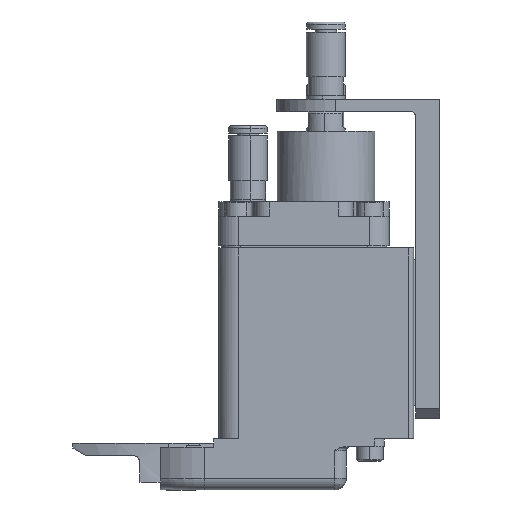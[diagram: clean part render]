
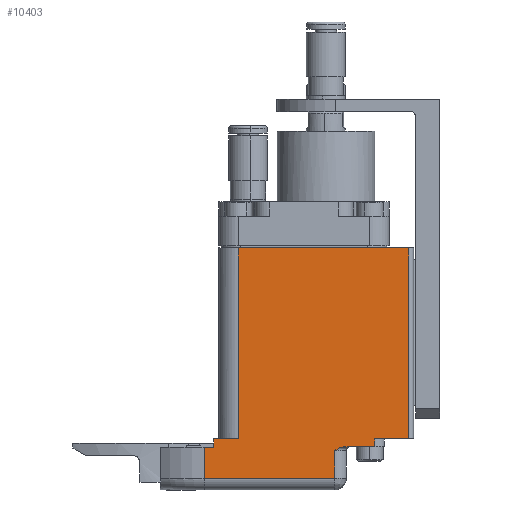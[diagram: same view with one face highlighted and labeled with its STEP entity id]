
A CAD part, front view. The second image highlights one B-rep face of the part: STEP entity #10403.
In plain terms, the highlighted planar face has unit normal (0, -1, 0).
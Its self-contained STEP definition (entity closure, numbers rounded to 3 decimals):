
#135 = CARTESIAN_POINT ( 'NONE',  ( 8.417, -14., -2.8 ) ) ;
#192 = ORIENTED_EDGE ( 'NONE', *, *, #5878, .F. ) ;
#200 = ORIENTED_EDGE ( 'NONE', *, *, #9912, .F. ) ;
#239 = VERTEX_POINT ( 'NONE', #12484 ) ;
#359 = LINE ( 'NONE', #11288, #4094 ) ;
#408 = ORIENTED_EDGE ( 'NONE', *, *, #11109, .F. ) ;
#1253 = CARTESIAN_POINT ( 'NONE',  ( 14.5, -14., 29.471 ) ) ;
#1292 = ORIENTED_EDGE ( 'NONE', *, *, #4006, .F. ) ;
#1313 = DIRECTION ( 'NONE',  ( 0., 0., 1. ) ) ;
#1344 = DIRECTION ( 'NONE',  ( 1., 0., 0. ) ) ;
#1468 = VERTEX_POINT ( 'NONE', #6836 ) ;
#1656 = CARTESIAN_POINT ( 'NONE',  ( 7.665, -14., -2.925 ) ) ;
#1915 = DIRECTION ( 'NONE',  ( 0., 0., 1. ) ) ;
#2013 = CARTESIAN_POINT ( 'NONE',  ( 12.458, -14., -2.8 ) ) ;
#2045 = B_SPLINE_CURVE_WITH_KNOTS ( 'NONE', 3,
 ( #12834, #6106, #4773, #1656, #7084, #16533, #4418, #9831 ),
 .UNSPECIFIED., .F., .F.,
 ( 4, 2, 2, 4 ),
 ( 0., 0.001, 0.001, 0.002 ),
 .UNSPECIFIED. ) ;
#2373 = VERTEX_POINT ( 'NONE', #6070 ) ;
#2648 = EDGE_LOOP ( 'NONE', ( #14217, #13059, #1292, #408, #12068, #3279, #2783, #3461, #12362, #200, #192, #12021, #3328 ) ) ;
#2783 = ORIENTED_EDGE ( 'NONE', *, *, #10973, .F. ) ;
#3279 = ORIENTED_EDGE ( 'NONE', *, *, #9351, .F. ) ;
#3328 = ORIENTED_EDGE ( 'NONE', *, *, #13060, .F. ) ;
#3461 = ORIENTED_EDGE ( 'NONE', *, *, #5302, .F. ) ;
#3686 = DIRECTION ( 'NONE',  ( 0., 0., -1. ) ) ;
#3727 = LINE ( 'NONE', #9136, #7245 ) ;
#3887 = CARTESIAN_POINT ( 'NONE',  ( -17.5, -14., 38. ) ) ;
#3987 = DIRECTION ( 'NONE',  ( 1., 0., 0. ) ) ;
#4006 = EDGE_CURVE ( 'NONE', #17161, #17285, #5323, .T. ) ;
#4036 = LINE ( 'NONE', #8193, #15175 ) ;
#4045 = CARTESIAN_POINT ( 'NONE',  ( 21.5, -14., -1.2 ) ) ;
#4094 = VECTOR ( 'NONE', #11387, 1000. ) ;
#4111 = CARTESIAN_POINT ( 'NONE',  ( 1.35, -14., -1.2 ) ) ;
#4126 = VECTOR ( 'NONE', #1344, 1000. ) ;
#4418 = CARTESIAN_POINT ( 'NONE',  ( 6.63, -14., -3.409 ) ) ;
#4604 = PLANE ( 'NONE',  #15197 ) ;
#4679 = EDGE_CURVE ( 'NONE', #12017, #1468, #14894, .T. ) ;
#4773 = CARTESIAN_POINT ( 'NONE',  ( 8.035, -14., -2.83 ) ) ;
#4923 = CARTESIAN_POINT ( 'NONE',  ( 14.5, -14., -2.8 ) ) ;
#5249 = CARTESIAN_POINT ( 'NONE',  ( -20.5, -14., 29.471 ) ) ;
#5302 = EDGE_CURVE ( 'NONE', #8340, #11499, #2045, .T. ) ;
#5323 = LINE ( 'NONE', #12151, #16556 ) ;
#5396 = VECTOR ( 'NONE', #16042, 1000. ) ;
#5700 = VECTOR ( 'NONE', #8588, 1000. ) ;
#5878 = EDGE_CURVE ( 'NONE', #12199, #11848, #359, .T. ) ;
#6050 = CARTESIAN_POINT ( 'NONE',  ( 6.3, -14., -9.3 ) ) ;
#6070 = CARTESIAN_POINT ( 'NONE',  ( -20.5, -14., -9.3 ) ) ;
#6106 = CARTESIAN_POINT ( 'NONE',  ( 8.223, -14., -2.8 ) ) ;
#6189 = CARTESIAN_POINT ( 'NONE',  ( 1.35, -14., -9.3 ) ) ;
#6749 = CARTESIAN_POINT ( 'NONE',  ( -13.5, -14., 38. ) ) ;
#6836 = CARTESIAN_POINT ( 'NONE',  ( -13.5, -14., -1.2 ) ) ;
#6860 = LINE ( 'NONE', #1253, #10956 ) ;
#6876 = VERTEX_POINT ( 'NONE', #4923 ) ;
#7084 = CARTESIAN_POINT ( 'NONE',  ( 7.484, -14., -2.991 ) ) ;
#7245 = VECTOR ( 'NONE', #14530, 1000. ) ;
#7448 = EDGE_CURVE ( 'NONE', #2373, #12578, #10830, .T. ) ;
#7573 = LINE ( 'NONE', #13239, #9802 ) ;
#7596 = DIRECTION ( 'NONE',  ( 0., 1., 0. ) ) ;
#7770 = CARTESIAN_POINT ( 'NONE',  ( 14.5, -14., -1.2 ) ) ;
#8098 = DIRECTION ( 'NONE',  ( 1., 0., 0. ) ) ;
#8193 = CARTESIAN_POINT ( 'NONE',  ( 1.35, -14., -2.9 ) ) ;
#8327 = CARTESIAN_POINT ( 'NONE',  ( 6.3, -14., -3.6 ) ) ;
#8340 = VERTEX_POINT ( 'NONE', #135 ) ;
#8588 = DIRECTION ( 'NONE',  ( -1., 0., 0. ) ) ;
#9136 = CARTESIAN_POINT ( 'NONE',  ( 21.5, -14., 38. ) ) ;
#9290 = EDGE_CURVE ( 'NONE', #8340, #6876, #10181, .T. ) ;
#9351 = EDGE_CURVE ( 'NONE', #15062, #2373, #11341, .T. ) ;
#9401 = LINE ( 'NONE', #3887, #13831 ) ;
#9802 = VECTOR ( 'NONE', #3686, 1000. ) ;
#9831 = CARTESIAN_POINT ( 'NONE',  ( 6.3, -14., -3.6 ) ) ;
#9912 = EDGE_CURVE ( 'NONE', #11848, #6876, #6860, .T. ) ;
#10080 = CARTESIAN_POINT ( 'NONE',  ( -13.5, -14., 38. ) ) ;
#10181 = LINE ( 'NONE', #2013, #13603 ) ;
#10297 = EDGE_CURVE ( 'NONE', #12199, #239, #3727, .T. ) ;
#10313 = CARTESIAN_POINT ( 'NONE',  ( -20.5, -14., -2.9 ) ) ;
#10403 = ADVANCED_FACE ( 'NONE', ( #14249 ), #4604, .F. ) ;
#10768 = LINE ( 'NONE', #4111, #4126 ) ;
#10830 = LINE ( 'NONE', #5249, #5396 ) ;
#10956 = VECTOR ( 'NONE', #12004, 1000. ) ;
#10973 = EDGE_CURVE ( 'NONE', #11499, #15062, #7573, .T. ) ;
#11091 = EDGE_CURVE ( 'NONE', #17285, #1468, #10768, .T. ) ;
#11109 = EDGE_CURVE ( 'NONE', #12578, #17161, #4036, .T. ) ;
#11288 = CARTESIAN_POINT ( 'NONE',  ( 22.5, -14., -1.2 ) ) ;
#11341 = LINE ( 'NONE', #6189, #5700 ) ;
#11387 = DIRECTION ( 'NONE',  ( -1., 0., 0. ) ) ;
#11415 = VECTOR ( 'NONE', #13823, 1000. ) ;
#11499 = VERTEX_POINT ( 'NONE', #8327 ) ;
#11848 = VERTEX_POINT ( 'NONE', #7770 ) ;
#12004 = DIRECTION ( 'NONE',  ( 0., 0., -1. ) ) ;
#12017 = VERTEX_POINT ( 'NONE', #10080 ) ;
#12021 = ORIENTED_EDGE ( 'NONE', *, *, #10297, .T. ) ;
#12068 = ORIENTED_EDGE ( 'NONE', *, *, #7448, .F. ) ;
#12151 = CARTESIAN_POINT ( 'NONE',  ( -18.5, -14., 29.471 ) ) ;
#12199 = VERTEX_POINT ( 'NONE', #4045 ) ;
#12320 = CARTESIAN_POINT ( 'NONE',  ( -18.5, -14., -2.9 ) ) ;
#12362 = ORIENTED_EDGE ( 'NONE', *, *, #9290, .T. ) ;
#12484 = CARTESIAN_POINT ( 'NONE',  ( 21.5, -14., 38. ) ) ;
#12578 = VERTEX_POINT ( 'NONE', #10313 ) ;
#12834 = CARTESIAN_POINT ( 'NONE',  ( 8.417, -14., -2.8 ) ) ;
#13010 = CARTESIAN_POINT ( 'NONE',  ( -17.5, -14., 38. ) ) ;
#13059 = ORIENTED_EDGE ( 'NONE', *, *, #11091, .F. ) ;
#13060 = EDGE_CURVE ( 'NONE', #12017, #239, #9401, .T. ) ;
#13239 = CARTESIAN_POINT ( 'NONE',  ( 6.3, -14., 29.471 ) ) ;
#13603 = VECTOR ( 'NONE', #15581, 1000. ) ;
#13823 = DIRECTION ( 'NONE',  ( 0., 0., -1. ) ) ;
#13831 = VECTOR ( 'NONE', #3987, 1000. ) ;
#14217 = ORIENTED_EDGE ( 'NONE', *, *, #4679, .T. ) ;
#14249 = FACE_OUTER_BOUND ( 'NONE', #2648, .T. ) ;
#14530 = DIRECTION ( 'NONE',  ( 0., 0., 1. ) ) ;
#14894 = LINE ( 'NONE', #6749, #11415 ) ;
#15062 = VERTEX_POINT ( 'NONE', #6050 ) ;
#15175 = VECTOR ( 'NONE', #8098, 1000. ) ;
#15197 = AXIS2_PLACEMENT_3D ( 'NONE', #13010, #7596, #1915 ) ;
#15581 = DIRECTION ( 'NONE',  ( 1., 0., 0. ) ) ;
#16042 = DIRECTION ( 'NONE',  ( 0., 0., 1. ) ) ;
#16533 = CARTESIAN_POINT ( 'NONE',  ( 6.96, -14., -3.218 ) ) ;
#16556 = VECTOR ( 'NONE', #1313, 1000. ) ;
#16733 = CARTESIAN_POINT ( 'NONE',  ( -18.5, -14., -1.2 ) ) ;
#17161 = VERTEX_POINT ( 'NONE', #12320 ) ;
#17285 = VERTEX_POINT ( 'NONE', #16733 ) ;
